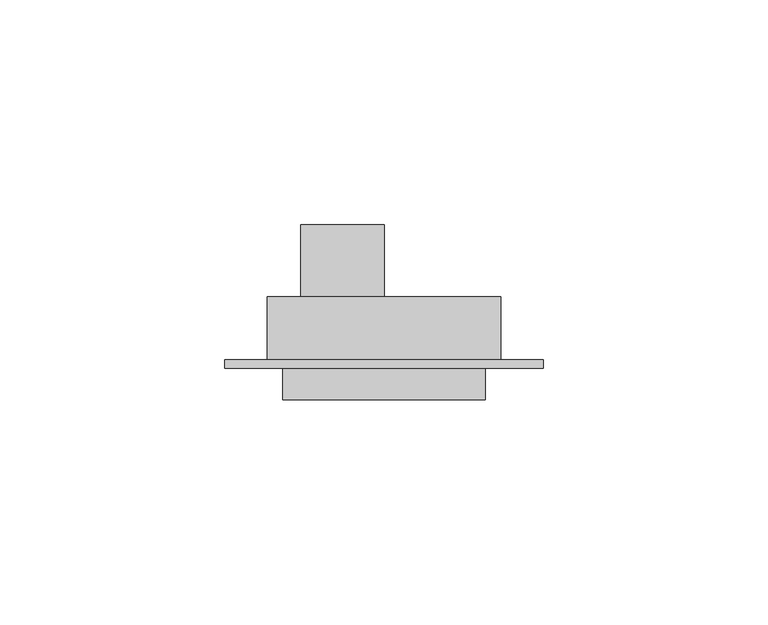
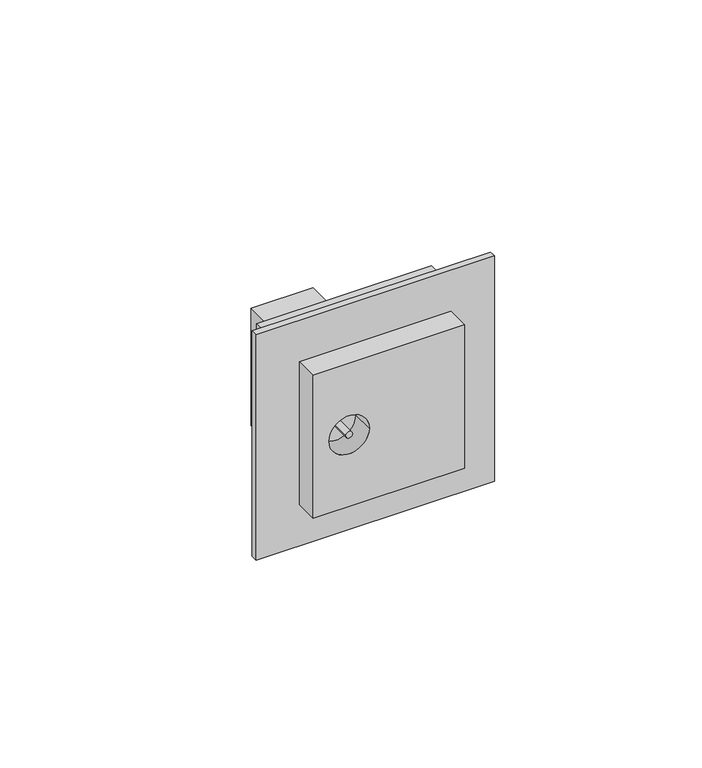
"""IFC4 building model written with IfcOpenShell, lengths in millimetres: proxy geometry."""

import ifcopenshell
import ifcopenshell.guid

model = None  # the IFC model being written
_history = None  # IfcOwnerHistory: only IFC2X3 demands one
_inside = {}  # id of a spatial element -> (the spatial element, [elements in it])
_under = {}  # id of a project, library or spatial element -> (it, [spatial elements below it])
_declared = {}  # id of a project -> (the project, [libraries it declares])
_typed = {}  # id of a type object -> (the type object, [elements of that type])
_made_of = {}  # id of a material, layer set ... -> (it, [elements and type objects made of it])


def new_model(schema):
    """Start an empty IFC model of exactly this schema.

    Asked for "IFC4X3", IfcOpenShell would pick the latest addendum, in which some entities
    have other attributes; the version numbers below select the first issue.
    IFC2X3 requires an IfcOwnerHistory on every rooted entity: one is made here for all.
    """
    global model, _history
    if schema == "IFC4X3":
        model = ifcopenshell.file(schema_version=(4, 3, 0, 0))
    else:
        model = ifcopenshell.file(schema=schema)
    _inside.clear()
    _under.clear()
    _declared.clear()
    _typed.clear()
    _made_of.clear()
    _history = None
    if model.schema == "IFC2X3":
        org = make("IfcOrganization", Name="unknown")
        user = make(
            "IfcPersonAndOrganization",
            ThePerson=make("IfcPerson", FamilyName="unknown"),
            TheOrganization=org,
        )
        app = make(
            "IfcApplication",
            ApplicationDeveloper=org,
            Version="unknown",
            ApplicationFullName="unknown",
            ApplicationIdentifier="unknown",
        )
        _history = make(
            "IfcOwnerHistory",
            OwningUser=user,
            OwningApplication=app,
            ChangeAction="ADDED",
            CreationDate=0,
        )
    return model


def make(cls, **values):
    """One entity of the class cls with the attributes given. An attribute that is None is left unset."""
    return model.create_entity(
        cls, **{name: value for name, value in values.items() if value is not None}
    )


def rooted(cls, **values):
    """An entity with a GlobalId (a new one), such as an element, a storey or a relation."""
    return make(cls, GlobalId=ifcopenshell.guid.new(), OwnerHistory=_history, **values)


def si_unit(unit_type, name, prefix=None):
    """IfcSIUnit, for example si_unit("LENGTHUNIT", "METRE", prefix="MILLI")."""
    return make("IfcSIUnit", UnitType=unit_type, Prefix=prefix, Name=name)


def assignment(units):
    """IfcUnitAssignment: the units of a project."""
    return None if units is None else make("IfcUnitAssignment", Units=units)


def point(xyz):
    """IfcCartesianPoint."""
    return None if xyz is None else make("IfcCartesianPoint", Coordinates=xyz)


def direction(xyz):
    """IfcDirection."""
    return None if xyz is None else make("IfcDirection", DirectionRatios=xyz)


def frame(location, z_axis=None, x_axis=None):
    """IfcAxis2Placement3D, a coordinate frame: its origin and axes. An axis left out is left unset."""
    return make(
        "IfcAxis2Placement3D",
        Location=point(location),
        Axis=direction(z_axis),
        RefDirection=direction(x_axis),
    )


def origin():
    """The frame at (0, 0, 0) with its axes left unset."""
    return frame((0.0, 0.0, 0.0))


def place(relative_to, where):
    """IfcLocalPlacement: puts the frame where relative to a parent placement (None: the world)."""
    return make(
        "IfcLocalPlacement", PlacementRelTo=relative_to, RelativePlacement=where
    )


def context(
    kind, dimensions, precision=None, world=None, true_north=None, identifier=None
):
    """IfcGeometricRepresentationContext, for example the 3D "Model" context."""
    return make(
        "IfcGeometricRepresentationContext",
        ContextIdentifier=identifier,
        ContextType=kind,
        CoordinateSpaceDimension=dimensions,
        Precision=precision,
        WorldCoordinateSystem=world,
        TrueNorth=true_north,
    )


def project(units=None, contexts=None):
    """IfcProject with its units and contexts."""
    return rooted(
        "IfcProject",
        Name="project",
        RepresentationContexts=contexts,
        UnitsInContext=assignment(units),
    )


def spatial(cls, under=None, at=None, **own):
    """A site, building, storey or space (cls), placed at a placement, below another one or the project."""
    s = rooted(cls, ObjectPlacement=at, **own)
    if under is not None:
        _under.setdefault(under.id(), (under, []))[1].append(s)
    return s


def polyline(points):
    """IfcPolyline through the points."""
    return make("IfcPolyline", Points=[point(p) for p in points])


def circle_curve(where, radius):
    """IfcCircle in the frame where."""
    return make("IfcCircle", Position=where, Radius=radius)


def outline(outer, holes=None, kind="AREA"):
    """IfcArbitraryClosedProfileDef: a profile drawn as a closed curve; with holes, ...WithVoids."""
    if holes is None:
        return make("IfcArbitraryClosedProfileDef", ProfileType=kind, OuterCurve=outer)
    return make(
        "IfcArbitraryProfileDefWithVoids",
        ProfileType=kind,
        OuterCurve=outer,
        InnerCurves=holes,
    )


def extrude(swept, where, along, depth):
    """IfcExtrudedAreaSolid: the profile swept, set in the frame where, extruded along a direction by depth."""
    return make(
        "IfcExtrudedAreaSolid",
        SweptArea=swept,
        Position=where,
        ExtrudedDirection=direction(along),
        Depth=depth,
    )


def shape(context_of_items, identifier, shape_type, items):
    """IfcShapeRepresentation: the items that make up one representation, for example the "Body"."""
    return make(
        "IfcShapeRepresentation",
        ContextOfItems=context_of_items,
        RepresentationIdentifier=identifier,
        RepresentationType=shape_type,
        Items=items,
    )


def source(mapping_origin, context_of_items, identifier, shape_type, items):
    """IfcRepresentationMap: a shape defined once, which mapped items show again and again."""
    return make(
        "IfcRepresentationMap",
        MappingOrigin=mapping_origin,
        MappedRepresentation=shape(context_of_items, identifier, shape_type, items),
    )


def transform(
    local_origin,
    x_axis=None,
    y_axis=None,
    z_axis=None,
    scale=None,
    scale2=None,
    scale3=None,
    uniform=True,
):
    """IfcCartesianTransformationOperator3D, or its non-uniform kind. x_axis, y_axis, z_axis: its Axis1, 2, 3."""
    if uniform:
        return make(
            "IfcCartesianTransformationOperator3D",
            Axis1=direction(x_axis),
            Axis2=direction(y_axis),
            LocalOrigin=point(local_origin),
            Scale=scale,
            Axis3=direction(z_axis),
        )
    return make(
        "IfcCartesianTransformationOperator3DnonUniform",
        Axis1=direction(x_axis),
        Axis2=direction(y_axis),
        LocalOrigin=point(local_origin),
        Scale=scale,
        Axis3=direction(z_axis),
        Scale2=scale2,
        Scale3=scale3,
    )


def mapped(mapping_source, mapping_target):
    """IfcMappedItem: shows the shape of a source again, moved by a transform."""
    return make(
        "IfcMappedItem", MappingSource=mapping_source, MappingTarget=mapping_target
    )


def made_of(thing, what):
    """Note that an element or type object is made of a material, layer set ...; save() writes the relation."""
    if what is not None:
        _made_of.setdefault(what.id(), (what, []))[1].append(thing)
    return thing


def element(
    cls,
    number,
    at=None,
    inside=None,
    cuts=None,
    type_object=None,
    material=None,
    context=None,
    identifier="Body",
    shape_type=None,
    held_by="IfcProductDefinitionShape",
    body=None,
    shapes=None,
    **own,
):
    """One element of the class cls, such as IfcWall. Its Tag is "e" and its number.

    at: its placement. inside: the storey or other place that contains it. cuts: it is an
    opening in that element (IfcRelVoidsElement). A single representation is given by context,
    identifier, shape_type and body (its items); several are given by shapes. held_by: the class
    of the entity that holds the representations. save() writes the other relations.
    """
    e = rooted(cls, Tag="e%d" % number, ObjectPlacement=at, **own)
    if body is not None:
        shapes = [shape(context, identifier, shape_type, body)]
    if shapes is not None:
        e.Representation = make(held_by, Representations=shapes)
    if inside is not None:
        _inside.setdefault(inside.id(), (inside, []))[1].append(e)
    if cuts is not None:
        rooted(
            "IfcRelVoidsElement", RelatingBuildingElement=cuts, RelatedOpeningElement=e
        )
    if type_object is not None:
        _typed.setdefault(type_object.id(), (type_object, []))[1].append(e)
    return made_of(e, material)


def aggregate(whole, parts):
    """IfcRelAggregates: a whole, such as a stair, and the parts it consists of."""
    return rooted("IfcRelAggregates", RelatingObject=whole, RelatedObjects=parts)


def save(model, path):
    """Write the relations noted so far, then the file.

    IfcRelAggregates (storeys below a building ...), IfcRelContainedInSpatialStructure (elements
    in a storey), IfcRelDefinesByType, IfcRelAssociatesMaterial and IfcRelDeclares: one each for
    every whole, place, type object, material and project.
    """
    for whole, parts in _under.values():
        aggregate(whole, parts)
    for where, things in _inside.values():
        rooted(
            "IfcRelContainedInSpatialStructure",
            RelatedElements=things,
            RelatingStructure=where,
        )
    for kind, things in _typed.values():
        rooted("IfcRelDefinesByType", RelatedObjects=things, RelatingType=kind)
    for what, things in _made_of.values():
        rooted("IfcRelAssociatesMaterial", RelatedObjects=things, RelatingMaterial=what)
    for by, libraries in _declared.values():
        rooted("IfcRelDeclares", RelatingContext=by, RelatedDefinitions=libraries)
    model.write(path)


def plane_surface(at):
    """IfcPlane: the flat surface through the origin of the frame at, square to its z axis."""
    return make("IfcPlane", Position=at)


def cylinder_surface(at, radius):
    """IfcCylindricalSurface: all points at the distance radius from the z axis of the frame at."""
    return make("IfcCylindricalSurface", Position=at, Radius=radius)


def revolved_surface(curve, axis_point, axis_direction):
    """IfcSurfaceOfRevolution: the curve turned about the line through axis_point along axis_direction."""
    return make(
        "IfcSurfaceOfRevolution",
        SweptCurve=make("IfcArbitraryOpenProfileDef", ProfileType="CURVE", Curve=curve),
        AxisPosition=make("IfcAxis1Placement", Location=point(axis_point), Axis=direction(axis_direction)),
    )


def advanced_brep(points, edges, surfaces, faces):
    """IfcAdvancedBrep: a solid bounded by faces that lie on surfaces and meet in shared edges.

    An edge is (start, end): straight between two places in points (the first is 0);
    or (start, end, curve); or (start, end, curve, False) where it runs against its curve.
    A face is (place in surfaces, loops), or (place, loops, False) where it looks against
    its surface's normal. A loop lists edges by number (the first is 1), with a minus sign
    where the edge is run from its end to its start. The first loop is the outer one.
    """
    corners = [point(p) for p in points]
    vertices = [make("IfcVertexPoint", VertexGeometry=c) for c in corners]
    made = []
    for start, end, *more in edges:
        made.append(
            make(
                "IfcEdgeCurve",
                EdgeStart=vertices[start],
                EdgeEnd=vertices[end],
                EdgeGeometry=more[0] if more else make("IfcPolyline", Points=[corners[start], corners[end]]),
                SameSense=more[1] if len(more) > 1 else True,
            )
        )
    hull = []
    for where, loops, *sense in faces:
        bounds = []
        for j, loop in enumerate(loops):
            ring = [make("IfcOrientedEdge", EdgeElement=made[abs(k) - 1], Orientation=k > 0) for k in loop]
            bounds.append(
                make(
                    "IfcFaceOuterBound" if j == 0 else "IfcFaceBound",
                    Bound=make("IfcEdgeLoop", EdgeList=ring),
                    Orientation=True,
                )
            )
        hull.append(make("IfcAdvancedFace", Bounds=bounds, FaceSurface=surfaces[where], SameSense=sense[0] if sense else True))
    return make("IfcAdvancedBrep", Outer=make("IfcClosedShell", CfsFaces=hull))


def electrical_fixtures_0e93574a(model_context):
    return source(origin(), model_context, "Body", "SolidModel", [
        extrude(outline(polyline([(-18.5, -4.7), (0.0, -4.7), (0.0, -20.7), (-18.5, -20.7), (-18.5, -4.7)])), frame((0.0, 0.0, -18.5), z_axis=(0.0, 0.0, 1.0), x_axis=(1.0, 0.0, 0.0)), (0.0, 0.0, 1.0), 37.0),
        advanced_brep(
        [(22.5, -43.7, -22.5), (22.5, -43.7, 22.5), (-22.5, -43.7, 22.5), (-22.5, -43.7, -22.5), (-17.8166667, -43.7, 0.0), (-5.8166667, -43.7, 0.0), (-12.8166667, -43.7, 0.0), (-10.8166667, -43.7, 0.0), (-22.5, -36.7, -22.5), (22.5, -36.7, -22.5), (-22.5, -36.7, 22.5), (22.5, -36.7, 22.5), (35.45, -34.7, -35.45), (-35.45, -34.7, -35.45), (-35.45, -34.7, 35.45), (35.45, -34.7, 35.45), (-26.0, -34.7, -26.0), (26.0, -34.7, -26.0), (26.0, -34.7, 26.0), (-26.0, -34.7, 26.0), (35.45, -36.7, -35.45), (35.45, -36.7, 35.45), (-35.45, -36.7, 35.45), (-35.45, -36.7, -35.45), (-5.8166667, -36.7, 0.0), (-17.8166667, -36.7, 0.0), (-10.8166667, -36.7, 0.0), (-12.8166667, -36.7, 0.0), (26.0, -20.7, -26.0), (-26.0, -20.7, -26.0), (-26.0, -20.7, 26.0), (26.0, -20.7, 26.0)],
        [
            (0, 1),
            (1, 2),
            (2, 3),
            (3, 0),
            (4, 5, circle_curve(frame((-11.8166667, -43.7, 0.0), z_axis=(0.0, 1.0, 0.0), x_axis=(1.0, 0.0, 0.0)), 6.0)),
            (5, 4, circle_curve(frame((-11.8166667, -43.7, 0.0), z_axis=(0.0, 1.0, 0.0), x_axis=(1.0, 0.0, 0.0)), 6.0)),
            (6, 7, circle_curve(frame((-11.8166667, -43.7, 0.0), z_axis=(0.0, -1.0, 0.0), x_axis=(1.0, 0.0, 0.0)), 1.0)),
            (7, 6, circle_curve(frame((-11.8166667, -43.7, 0.0), z_axis=(0.0, -1.0, 0.0), x_axis=(1.0, 0.0, 0.0)), 1.0)),
            (3, 8),
            (8, 9),
            (9, 0),
            (2, 10),
            (10, 8),
            (1, 11),
            (11, 10),
            (9, 11),
            (12, 13),
            (13, 14),
            (14, 15),
            (15, 12),
            (16, 17),
            (17, 18),
            (18, 19),
            (19, 16),
            (20, 21),
            (21, 22),
            (22, 23),
            (23, 20),
            (24, 25, circle_curve(frame((-11.8166667, -36.7, 0.0), z_axis=(0.0, -1.0, 0.0), x_axis=(1.0, 0.0, 0.0)), 6.0)),
            (25, 24, circle_curve(frame((-11.8166667, -36.7, 0.0), z_axis=(0.0, -1.0, 0.0), x_axis=(1.0, 0.0, 0.0)), 6.0)),
            (26, 27, circle_curve(frame((-11.8166667, -36.7, 0.0), z_axis=(0.0, 1.0, 0.0), x_axis=(1.0, 0.0, 0.0)), 1.0)),
            (27, 26, circle_curve(frame((-11.8166667, -36.7, 0.0), z_axis=(0.0, 1.0, 0.0), x_axis=(1.0, 0.0, 0.0)), 1.0)),
            (12, 20),
            (23, 13),
            (22, 14),
            (21, 15),
            (28, 29),
            (29, 30),
            (30, 31),
            (31, 28),
            (28, 17),
            (16, 29),
            (19, 30),
            (18, 31),
            (4, 25),
            (24, 5),
            (6, 27),
            (26, 7),
        ],
        [
            plane_surface(frame((-22.5, -43.7, -22.5), z_axis=(0.0, -1.0, 0.0), x_axis=(1.0, 0.0, 0.0))),
            plane_surface(frame((22.5, -36.7, -22.5), z_axis=(0.0, 0.0, -1.0), x_axis=(0.0, -1.0, 0.0))),
            plane_surface(frame((-22.5, -36.7, -22.5), z_axis=(-1.0, 0.0, 0.0), x_axis=(0.0, -1.0, 0.0))),
            plane_surface(frame((-22.5, -36.7, 22.5), z_axis=(0.0, 0.0, 1.0), x_axis=(0.0, -1.0, 0.0))),
            plane_surface(frame((22.5, -36.7, 22.5), z_axis=(1.0, 0.0, 0.0), x_axis=(0.0, -1.0, 0.0))),
            plane_surface(frame((-35.45, -34.7, -35.45), z_axis=(0.0, 1.0, 0.0), x_axis=(-1.0, 0.0, 0.0))),
            plane_surface(frame((-35.45, -36.7, -35.45), z_axis=(0.0, -1.0, 0.0), x_axis=(1.0, 0.0, 0.0))),
            plane_surface(frame((35.45, -34.7, -35.45), z_axis=(0.0, 0.0, -1.0), x_axis=(0.0, -1.0, 0.0))),
            plane_surface(frame((-35.45, -34.7, -35.45), z_axis=(-1.0, 0.0, 0.0), x_axis=(0.0, -1.0, 0.0))),
            plane_surface(frame((-35.45, -34.7, 35.45), z_axis=(0.0, 0.0, 1.0), x_axis=(0.0, -1.0, 0.0))),
            plane_surface(frame((35.45, -34.7, 35.45), z_axis=(1.0, 0.0, 0.0), x_axis=(0.0, -1.0, 0.0))),
            plane_surface(frame((-26.0, -20.7, -26.0), z_axis=(0.0, 1.0, 0.0), x_axis=(-1.0, 0.0, 0.0))),
            plane_surface(frame((26.0, -20.7, -26.0), z_axis=(0.0, 0.0, -1.0), x_axis=(0.0, -1.0, 0.0))),
            plane_surface(frame((-26.0, -20.7, -26.0), z_axis=(-1.0, 0.0, 0.0), x_axis=(0.0, -1.0, 0.0))),
            plane_surface(frame((-26.0, -20.7, 26.0), z_axis=(0.0, 0.0, 1.0), x_axis=(0.0, -1.0, 0.0))),
            plane_surface(frame((26.0, -20.7, 26.0), z_axis=(1.0, 0.0, 0.0), x_axis=(0.0, -1.0, 0.0))),
            revolved_surface(polyline([(-5.816666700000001, -36.7, 0.0), (-5.816666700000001, -43.7, 0.0)]), (-11.8166667, -43.7, 0.0), (0.0, 1.0, 0.0)),
            cylinder_surface(frame((-11.8166667, -34.7, 0.0), z_axis=(0.0, -1.0, 0.0), x_axis=(1.0, 0.0, 0.0)), 1.0),
        ],
        [
            (0, [[1, 2, 3, 4], [5, 6]]),
            (0, [[7, 8]]),
            (1, [[-4, 9, 10, 11]]),
            (2, [[-3, 12, 13, -9]]),
            (3, [[-2, 14, 15, -12]]),
            (4, [[-1, -11, 16, -14]]),
            (5, [[17, 18, 19, 20], [21, 22, 23, 24]]),
            (6, [[25, 26, 27, 28], [-10, -13, -15, -16]]),
            (6, [[29, 30], [31, 32]]),
            (7, [[-17, 33, -28, 34]]),
            (8, [[-18, -34, -27, 35]]),
            (9, [[-19, -35, -26, 36]]),
            (10, [[-20, -36, -25, -33]]),
            (11, [[37, 38, 39, 40]]),
            (12, [[-37, 41, -21, 42]]),
            (13, [[-38, -42, -24, 43]]),
            (14, [[-39, -43, -23, 44]]),
            (15, [[-40, -44, -22, -41]]),
            (16, [[45, -29, 46, -5]]),
            (16, [[-45, -6, -46, -30]]),
            (17, [[47, -31, 48, -7]]),
            (17, [[-47, -8, -48, -32]]),
        ],
    ),
    ])


if __name__ == "__main__":
    model = new_model("IFC4")
    model_context = context("Model", 3, world=origin())
    ifc_project = project(units=[si_unit("LENGTHUNIT", "METRE", prefix="MILLI")], contexts=[model_context])
    site = spatial("IfcSite", under=ifc_project)
    building = spatial("IfcBuilding", under=site)
    placement = place(None, origin())
    electrical_fixtures_shape = electrical_fixtures_0e93574a(model_context)
    element("IfcBuildingElementProxy", 1, Name="Electrical Fixtures", at=placement, inside=building, context=model_context, shape_type="MappedRepresentation", body=[
        mapped(electrical_fixtures_shape, transform((0.0, 0.0, 0.0), x_axis=(1.0, 0.0, 0.0), y_axis=(0.0, 1.0, 0.0), z_axis=(0.0, 0.0, 1.0))),
    ])
    save(model, "model.ifc")
